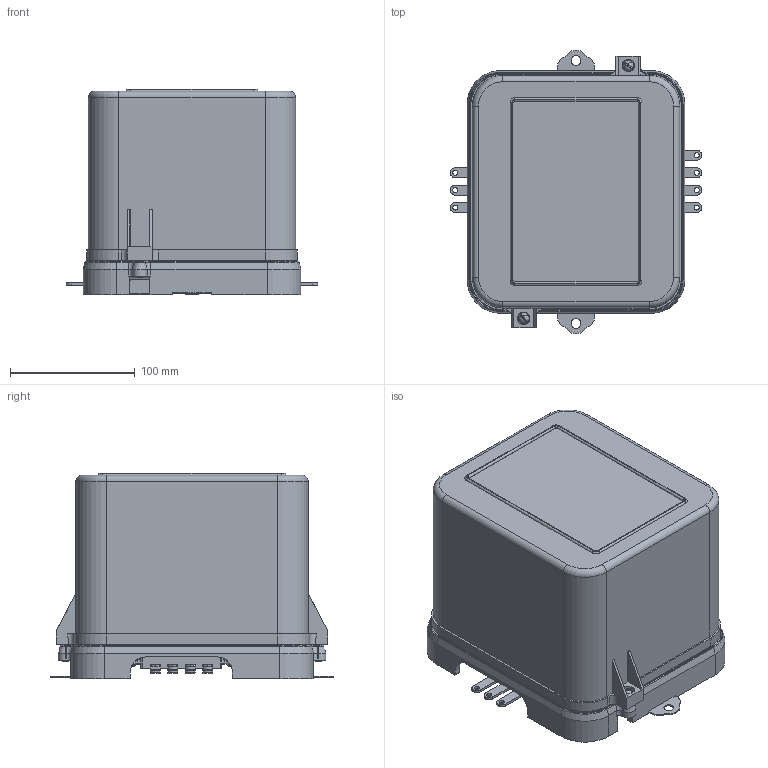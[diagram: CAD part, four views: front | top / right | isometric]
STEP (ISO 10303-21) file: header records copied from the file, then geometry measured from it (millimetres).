
FILE_DESCRIPTION(('STEP AP214'), '1');
FILE_NAME('ÐÍÔ-1Ì ïåðåäíåå ïðèñîåäèíåíèå', '', ('UNSPECIFIED'), ('UNSPECIFIED'), 'ASCON STEP Converter 1.3', 'ASCON Math Kernel', '');
FILE_SCHEMA(('AUTOMOTIVE_DESIGN { 1 0 10303 214 3 1 1}'));
Length unit declared in the file: millimetre
Bounding box: 202 x 227.95 x 165 mm (x, y, z)
Volume: 573966.5 mm3; surface area: 417029.9 mm2
Topology: 1 solids, 1 shells, 2213 faces, 5497 edges, 3546 vertices
Faces by surface type: plane 1205, cylinder 754, torus 97, bspline 84, cone 61, sphere 12
Full cylindrical faces by diameter (mm): 3.242 x8, 4 x22, 4.1 x8, 4.3 x9, 4.5 x8, 5 x2, 5.5 x2, 6 x4, 7 x8, 8 x19, 8.5 x2, 10 x4
Entity records: 94227 total; most frequent: CARTESIAN_POINT 23896, DIRECTION 10898, ORIENTED_EDGE 10668, EDGE_CURVE 5334, AXIS2_PLACEMENT_3D 3910, VERTEX_POINT 3542, LINE 3078, VECTOR 3078
